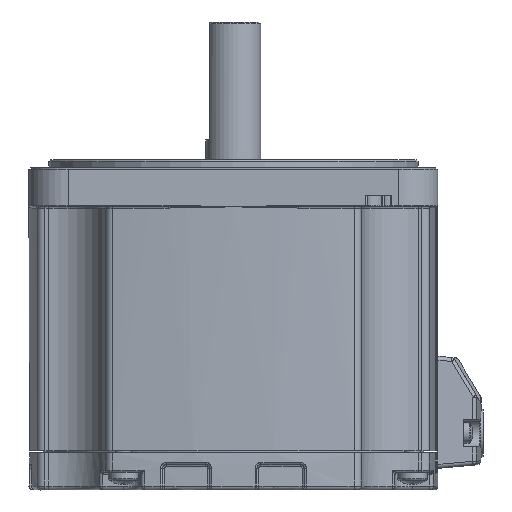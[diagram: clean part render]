
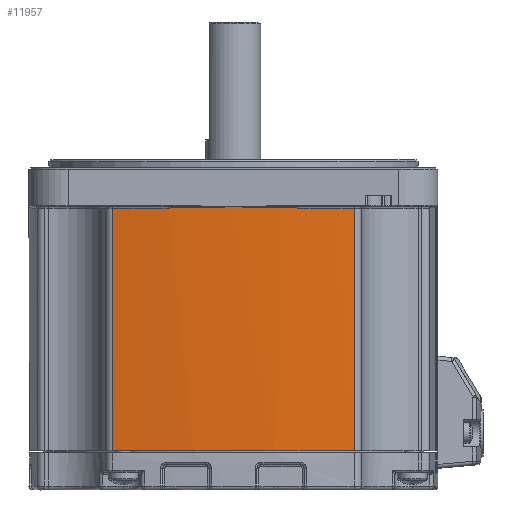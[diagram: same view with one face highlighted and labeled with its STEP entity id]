
A CAD part, left-side view. The second image highlights one B-rep face of the part: STEP entity #11957.
In plain terms, the highlighted cylindrical face has radius 230 mm (diameter 460 mm), a partial arc.
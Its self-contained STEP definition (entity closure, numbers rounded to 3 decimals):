
#5623=CARTESIAN_POINT('',(-101.933,21.232,-51.001));
#5624=VERTEX_POINT('',#5623);
#5632=CARTESIAN_POINT('',(-101.933,82.768,-51.001));
#5633=VERTEX_POINT('',#5632);
#5634=CARTESIAN_POINT('',(126.,52.,-51.001));
#5635=DIRECTION('',(0.,0.,1.0));
#5636=DIRECTION('',(-0.99,-0.141,0.));
#5637=AXIS2_PLACEMENT_3D('',#5634,#5635,#5636);
#5638=CIRCLE('',#5637,230.);
#5639=EDGE_CURVE('',#5633,#5624,#5638,.T.);
#6763=CARTESIAN_POINT('',(-101.933,82.768,10.699));
#6764=VERTEX_POINT('',#6763);
#6797=CARTESIAN_POINT('',(-103.401,68.592,10.699));
#6798=VERTEX_POINT('',#6797);
#6816=CARTESIAN_POINT('',(126.,52.,10.699));
#6817=DIRECTION('',(0.,0.,1.));
#6818=DIRECTION('',(-0.996,0.092,0.));
#6819=AXIS2_PLACEMENT_3D('',#6816,#6817,#6818);
#6820=CIRCLE('',#6819,230.);
#6821=EDGE_CURVE('',#6764,#6798,#6820,.T.);
#6891=CARTESIAN_POINT('',(-103.701,63.728,10.779));
#6892=VERTEX_POINT('',#6891);
#6893=CARTESIAN_POINT('',(-104.,52.,10.999));
#6894=VERTEX_POINT('',#6893);
#6895=CARTESIAN_POINT('',(-103.701,63.728,10.779));
#6896=CARTESIAN_POINT('',(-103.899,59.841,10.894));
#6897=CARTESIAN_POINT('',(-103.999,55.948,10.938));
#6898=CARTESIAN_POINT('',(-104.,52.036,10.998));
#6899=CARTESIAN_POINT('',(-104.,52.018,10.998));
#6900=CARTESIAN_POINT('',(-104.,52.,10.999));
#6901=B_SPLINE_CURVE_WITH_KNOTS('',3,(#6895,#6896,#6897,#6898,#6899,#6900),.UNSPECIFIED.,.F.,.U.,(4,2,4),(-1.17,0.0,0.005),.UNSPECIFIED.);
#6902=EDGE_CURVE('',#6892,#6894,#6901,.T.);
#6955=CARTESIAN_POINT('',(-103.401,68.592,10.699));
#6956=CARTESIAN_POINT('',(-103.518,66.971,10.699));
#6957=CARTESIAN_POINT('',(-103.618,65.35,10.731));
#6958=CARTESIAN_POINT('',(-103.701,63.728,10.779));
#6959=B_SPLINE_CURVE_WITH_KNOTS('',3,(#6955,#6956,#6957,#6958),.UNSPECIFIED.,.F.,.U.,(4,4),(0.,0.488),.UNSPECIFIED.);
#6960=EDGE_CURVE('',#6798,#6892,#6959,.T.);
#7185=CARTESIAN_POINT('',(-103.701,40.272,10.779));
#7186=VERTEX_POINT('',#7185);
#7205=CARTESIAN_POINT('',(-104.,52.,10.999));
#7206=CARTESIAN_POINT('',(-104.,51.982,10.998));
#7207=CARTESIAN_POINT('',(-104.,51.964,10.998));
#7208=CARTESIAN_POINT('',(-103.999,48.052,10.938));
#7209=CARTESIAN_POINT('',(-103.899,44.159,10.894));
#7210=CARTESIAN_POINT('',(-103.701,40.272,10.779));
#7211=B_SPLINE_CURVE_WITH_KNOTS('',3,(#7205,#7206,#7207,#7208,#7209,#7210),.UNSPECIFIED.,.F.,.U.,(4,2,4),(-1.175,-1.17,0.0),.UNSPECIFIED.);
#7212=EDGE_CURVE('',#6894,#7186,#7211,.T.);
#7224=CARTESIAN_POINT('',(-103.401,35.408,10.699));
#7225=VERTEX_POINT('',#7224);
#7233=CARTESIAN_POINT('',(-101.933,21.232,10.699));
#7234=VERTEX_POINT('',#7233);
#7235=CARTESIAN_POINT('',(126.,52.,10.699));
#7236=DIRECTION('',(0.,0.,1.));
#7237=DIRECTION('',(-0.996,-0.092,0.));
#7238=AXIS2_PLACEMENT_3D('',#7235,#7236,#7237);
#7239=CIRCLE('',#7238,230.);
#7240=EDGE_CURVE('',#7225,#7234,#7239,.T.);
#7491=CARTESIAN_POINT('',(-103.701,40.272,10.779));
#7492=CARTESIAN_POINT('',(-103.618,38.65,10.731));
#7493=CARTESIAN_POINT('',(-103.518,37.029,10.699));
#7494=CARTESIAN_POINT('',(-103.401,35.408,10.699));
#7495=B_SPLINE_CURVE_WITH_KNOTS('',3,(#7491,#7492,#7493,#7494),.UNSPECIFIED.,.F.,.U.,(4,4),(0.,0.488),.UNSPECIFIED.);
#7496=EDGE_CURVE('',#7186,#7225,#7495,.T.);
#11927=CARTESIAN_POINT('',(-101.933,82.768,-51.001));
#11928=DIRECTION('',(0.0,0.0,1.0));
#11929=VECTOR('',#11928,61.7);
#11930=LINE('',#11927,#11929);
#11931=EDGE_CURVE('',#5633,#6764,#11930,.T.);
#11936=CARTESIAN_POINT('',(126.,52.,-51.001));
#11937=DIRECTION('',(0.,0.,1.0));
#11938=DIRECTION('',(-0.99,-0.141,0.));
#11939=AXIS2_PLACEMENT_3D('',#11936,#11937,#11938);
#11940=CYLINDRICAL_SURFACE('',#11939,230.);
#11941=ORIENTED_EDGE('',*,*,#6821,.F.);
#11942=ORIENTED_EDGE('',*,*,#11931,.F.);
#11943=ORIENTED_EDGE('',*,*,#5639,.T.);
#11944=CARTESIAN_POINT('',(-101.933,21.232,10.699));
#11945=DIRECTION('',(0.0,0.0,-1.0));
#11946=VECTOR('',#11945,61.7);
#11947=LINE('',#11944,#11946);
#11948=EDGE_CURVE('',#7234,#5624,#11947,.T.);
#11949=ORIENTED_EDGE('',*,*,#11948,.F.);
#11950=ORIENTED_EDGE('',*,*,#7240,.F.);
#11951=ORIENTED_EDGE('',*,*,#7496,.F.);
#11952=ORIENTED_EDGE('',*,*,#7212,.F.);
#11953=ORIENTED_EDGE('',*,*,#6902,.F.);
#11954=ORIENTED_EDGE('',*,*,#6960,.F.);
#11955=EDGE_LOOP('',(#11941,#11942,#11943,#11949,#11950,#11951,#11952,#11953,#11954));
#11956=FACE_OUTER_BOUND('',#11955,.T.);
#11957=ADVANCED_FACE('',(#11956),#11940,.T.);
